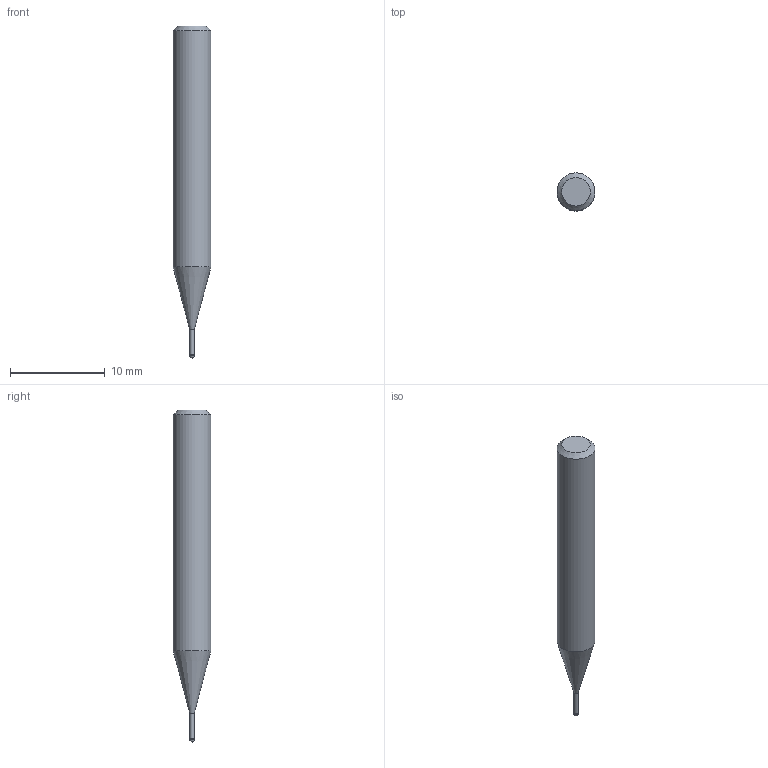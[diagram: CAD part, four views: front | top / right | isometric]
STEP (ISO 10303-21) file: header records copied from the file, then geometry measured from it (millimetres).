
FILE_DESCRIPTION((''),'2;1');
FILE_NAME('C:\Users\nsx150\AppData\Local\Temp\Mastercam 2021\QT8KEW0Y7J\TEMP.step','2021-04-23T11:20:44',(''),(''),'STEP Write','Mastercam 2021 ... CNC Software, Inc.','');
FILE_SCHEMA(('AUTOMOTIVE_DESIGN'));
Length unit declared in the file: millimetre
Products named in the file (1): None
Bounding box: 4 x 4 x 35 mm (x, y, z)
Volume: 349.4 mm3; surface area: 380.3 mm2
Topology: 2 solids, 2 shells, 9 faces, 14 edges, 8 vertices
Faces by surface type: plane 3, cylinder 3, cone 2, sphere 1
Full cylindrical faces by diameter (mm): 0.46 x1, 0.5 x1, 4 x1
Entity records: 211 total; most frequent: DIRECTION 36, CARTESIAN_POINT 25, AXIS2_PLACEMENT_3D 18, ORIENTED_EDGE 14, EDGE_LOOP 14, STYLED_ITEM 12, ADVANCED_FACE 9, FACE_BOUND 8
